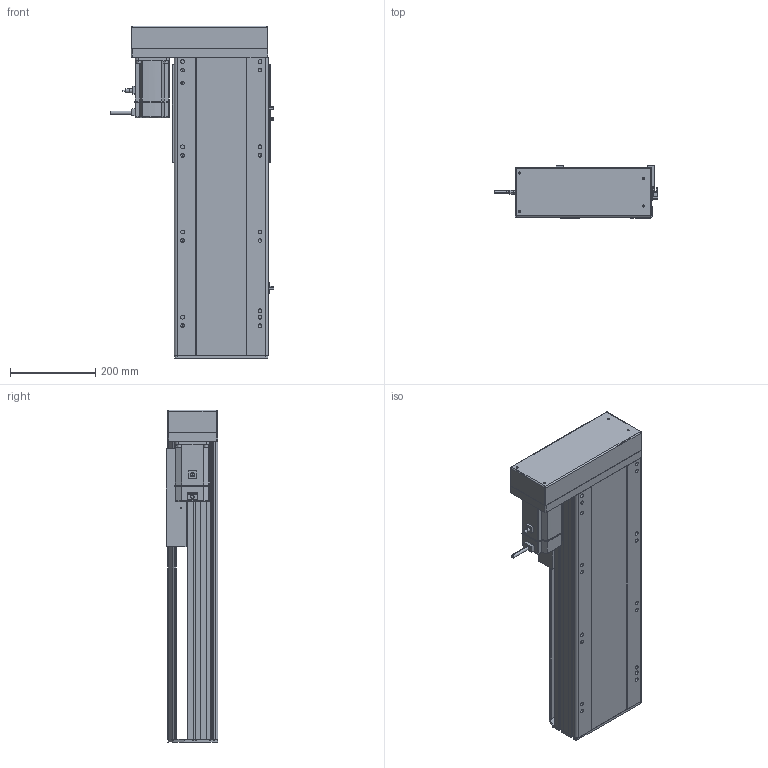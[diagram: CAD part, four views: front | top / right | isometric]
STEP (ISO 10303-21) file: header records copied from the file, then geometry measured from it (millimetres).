
FILE_DESCRIPTION (( 'STEP AP214' ), '1' );
FILE_NAME ('RTH22-XX-400-R-M75-C4.STEP', '2025-10-25T03:08:54', ( 'Microsoft' ), ( 'Microsoft' ), 'SwSTEP 2.0', 'SolidWorks 2018', '' );
FILE_SCHEMA (( 'AUTOMOTIVE_DESIGN' ));
Length unit declared in the file: millimetre
Products named in the file (10): N_RTH22-L-007奻裔^RTH22-XX-XX-R-M75-C4; N_RTH22-L-011菁釱^RTH22-XX-XX-R-M75-C4; N_RTH22-L-004-SFS25賑釱^RTH22-XX-XX-R-M75-C4; N_OMRON EE-SX672 传感器^RTH22-XX-XX-R-M75-C4; N_750W萇儂^RTH22-XX-XX-R-M75-C4; N_RTH22-GY-001耜裔^RTH22-XX-XX-R-M75-C4; N_RTH22-GY-013外置感应片^RTH22-XX-XX-R-M75-C4; N_RTH22-L-018裔赽^RTH22-XX-XX-R-M75-C4; RTH22-XX-400-R-M75-C4; N_RTH22-R-008-P75萇儂啣^RTH22-XX-XX-R-M75-C4
Assembly tree (11 placements, depth 2):
  RTH22-XX-400-R-M75-C4
    N_RTH22-L-011菁釱^RTH22-XX-XX-R-M75-C4
    N_RTH22-GY-001耜裔^RTH22-XX-XX-R-M75-C4
    N_750W萇儂^RTH22-XX-XX-R-M75-C4
    N_RTH22-R-008-P75萇儂啣^RTH22-XX-XX-R-M75-C4
    N_RTH22-L-007奻裔^RTH22-XX-XX-R-M75-C4
    N_OMRON EE-SX672 传感器^RTH22-XX-XX-R-M75-C4  x3
    N_RTH22-GY-013外置感应片^RTH22-XX-XX-R-M75-C4
    N_RTH22-L-004-SFS25賑釱^RTH22-XX-XX-R-M75-C4
    N_RTH22-L-018裔赽^RTH22-XX-XX-R-M75-C4
Bounding box: 384.7 x 122 x 779.7 mm (x, y, z)
Volume: 11920364.3 mm3; surface area: 1419875.1 mm2
Topology: 11 solids, 11 shells, 1538 faces, 4197 edges, 2713 vertices
Faces by surface type: plane 787, cylinder 426, bspline 279, cone 46
Entity records: 37993 total; most frequent: CARTESIAN_POINT 11758, ORIENTED_EDGE 5394, DIRECTION 5023, EDGE_CURVE 2697, VERTEX_POINT 1749, LINE 1699, VECTOR 1699, AXIS2_PLACEMENT_3D 1662
